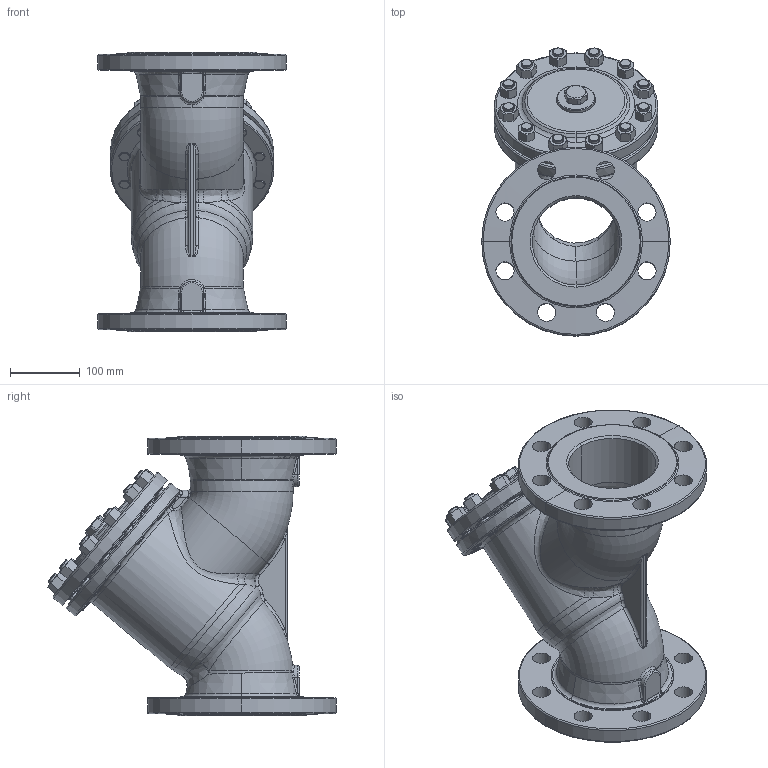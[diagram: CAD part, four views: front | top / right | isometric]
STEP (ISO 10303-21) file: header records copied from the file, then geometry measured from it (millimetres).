
FILE_DESCRIPTION (( 'STEP AP203' ), '1' );
FILE_NAME ('821_DN125 PN40.STEP', '2010-01-13T07:48:26', ( 'wtarnaws' ), ( '' ), 'SwSTEP 2.0', 'SolidWorks 2010', '' );
FILE_SCHEMA (( 'CONFIG_CONTROL_DESIGN' ));
Length unit declared in the file: millimetre
Products named in the file (6): Pokrywa125; KOREK 1 1-2_Default; M16 x 45_PreviewCfg; PN-EB ISO 4032_Nakrêtka szeœciok¹tna M16; 821_DN125 PN40; Kad³ub125 - z
Assembly tree (27 placements, depth 2):
  821_DN125 PN40
    M16 x 45_PreviewCfg  x12
    PN-EB ISO 4032_Nakrêtka szeœciok¹tna M16  x12
    Pokrywa125
    Kad³ub125 - z
    KOREK 1 1-2_Default
Bounding box: 270 x 412.62 x 400 mm (x, y, z)
Volume: 5948148.1 mm3; surface area: 885469.2 mm2
Topology: 27 solids, 27 shells, 1124 faces, 2433 edges, 1396 vertices
Faces by surface type: cone 382, cylinder 315, plane 181, torus 158, bspline 84, sphere 4
Entity records: 45486 total; most frequent: CARTESIAN_POINT 33375, ORIENTED_EDGE 2270, DIRECTION 2251, EDGE_CURVE 1135, AXIS2_PLACEMENT_3D 980, VERTEX_POINT 670, EDGE_LOOP 585, CIRCLE 548
